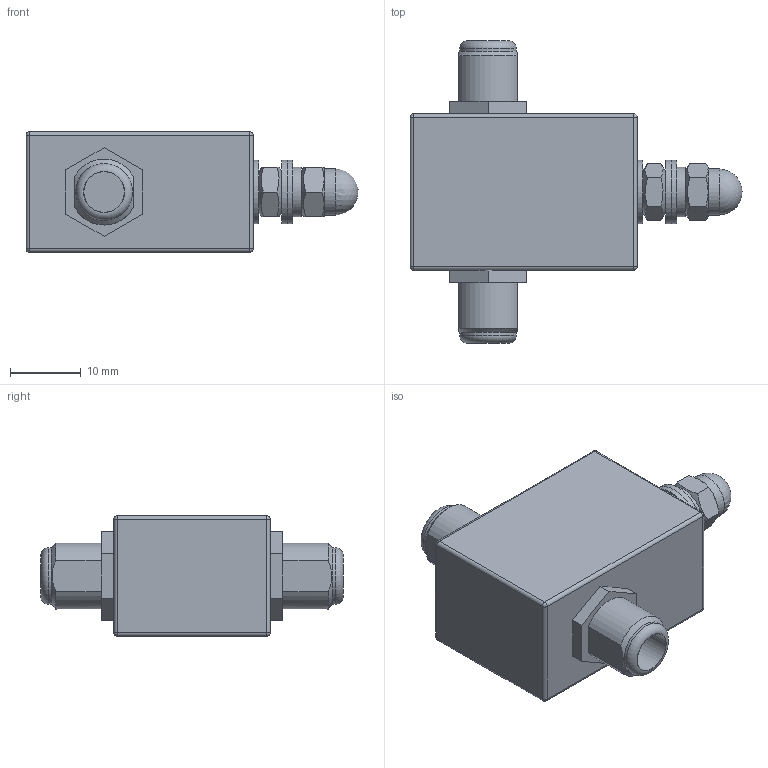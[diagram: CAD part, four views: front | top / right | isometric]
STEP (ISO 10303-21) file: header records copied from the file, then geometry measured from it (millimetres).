
FILE_DESCRIPTION(/* description */ (''),/* implementation_level */ '2;1');
FILE_NAME(/* name */ 'K:\PROJEKTY ROZPRACOVANÉ\MODELY DO KATALOGU\KO\3D - STEP\KO-9P.stp',/* time_stamp */ '2018-05-17T12:21:35+02:00',/* author */ ('admin'),/* organization */ (''),/* preprocessor_version */ 'ST-DEVELOPER v16.1',/* originating_system */ 'Autodesk Inventor 2016',/* authorisation */ '');
FILE_SCHEMA (('AUTOMOTIVE_DESIGN { 1 0 10303 214 3 1 1 }'));
Length unit declared in the file: millimetre
Products named in the file (7): KO-9P; DIN 934 - M4 x 0,7; DIN 7980 - 4; DIN 125 - A 4,3; DIN 1587 - M4 x 0,7; PŘECHODKA F-F-F-F; KO-9P_1
Assembly tree (9 placements, depth 2):
  KO-9P_1
    KO-9P
    DIN 934 - M4 x 0,7
    DIN 7980 - 4
    DIN 125 - A 4,3  x3
    DIN 1587 - M4 x 0,7
    PŘECHODKA F-F-F-F  x2
Bounding box: 46.78 x 42.6 x 17 mm (x, y, z)
Volume: 14075.9 mm3; surface area: 6252.4 mm2
Topology: 9 solids, 9 shells, 128 faces, 277 edges, 171 vertices
Faces by surface type: plane 61, cylinder 36, cone 20, sphere 9, torus 2
Full cylindrical faces by diameter (mm): 3.242 x2, 4 x1, 4.3 x3, 5.7 x2, 6.5 x1, 8 x2, 9 x3
Entity records: 2564 total; most frequent: CARTESIAN_POINT 482, DIRECTION 440, ORIENTED_EDGE 360, AXIS2_PLACEMENT_3D 184, EDGE_CURVE 180, EDGE_LOOP 124, VERTEX_POINT 118, FACE_OUTER_BOUND 96
